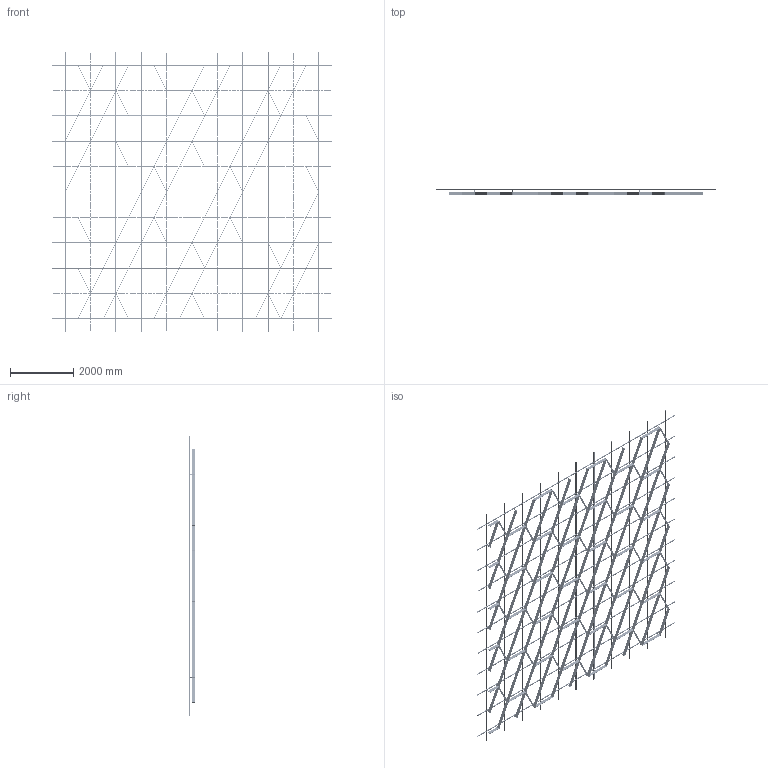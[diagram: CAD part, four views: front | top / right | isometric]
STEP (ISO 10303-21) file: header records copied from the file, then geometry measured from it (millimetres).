
FILE_DESCRIPTION (( 'STEP AP203' ), '1' );
FILE_NAME ('29 ìèäè ñ ïñ.step', '2025-11-26T11:56:11', ( '' ), ( '' ), 'SwSTEP 2.0', 'SolidWorks 2020', '' );
FILE_SCHEMA (( 'CONFIG_CONTROL_DESIGN' ));
Length unit declared in the file: millimetre
Products named in the file (5): SS.SEMA.2400 - Ñèìà-ïðîôèëü — îáðåçàí 1600; SS.SEMA.2400 - Ñèìà-ïðîôèëü; Ñèñòåìà â çîíå 8000õ8000; 29 ìèäè ñ ïñ; 謶鎷ar29
Assembly tree (90 placements, depth 3):
  29 ìèäè ñ ïñ
    Ñèñòåìà â çîíå 8000õ8000
      SS.SEMA.2400 - Ñèìà-ïðîôèëü  x66
      SS.SEMA.2400 - Ñèìà-ïðîôèëü — îáðåçàí 1600  x22
    謶鎷ar29
Bounding box: 8800 x 205 x 8800 mm (x, y, z)
Volume: 138316290.7 mm3; surface area: 60594002.9 mm2
Topology: 616 solids, 616 shells, 18916 faces, 51644 edges, 33960 vertices
Faces by surface type: cylinder 12610, plane 6306
Entity records: 70815 total; most frequent: CARTESIAN_POINT 16298, DIRECTION 10194, ORIENTED_EDGE 10136, EDGE_CURVE 5068, AXIS2_PLACEMENT_3D 4848, VERTEX_POINT 3368, EDGE_LOOP 2922, FACE_OUTER_BOUND 2760
